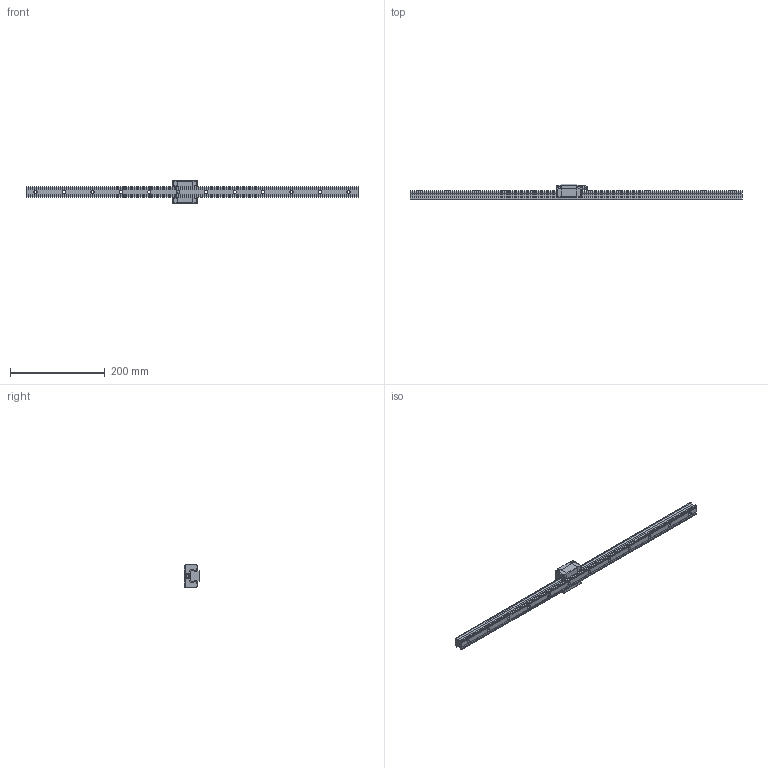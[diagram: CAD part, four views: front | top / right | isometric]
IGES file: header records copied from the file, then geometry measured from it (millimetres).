
Start section: SolidWorks IGES file using analytic representation for surfaces
Global section: file name: C:\Users\tsuch\OneDrive\デスクトップ\EG25関連修正(3D)\EGS25S.IGS; native system: SolidWorks 2019; preprocessor: SolidWorks 2019; author: tsuch; date: 210706.144339; units: millimetre
Bounding box: 700 x 33 x 48 mm (x, y, z)
Surface area: 86713.2 mm2 (no closed solid volume)
Topology: 0 solids, 0 shells, 516 faces, 5699 edges, 5695 vertices
Faces by surface type: bspline 324, revolution 192
